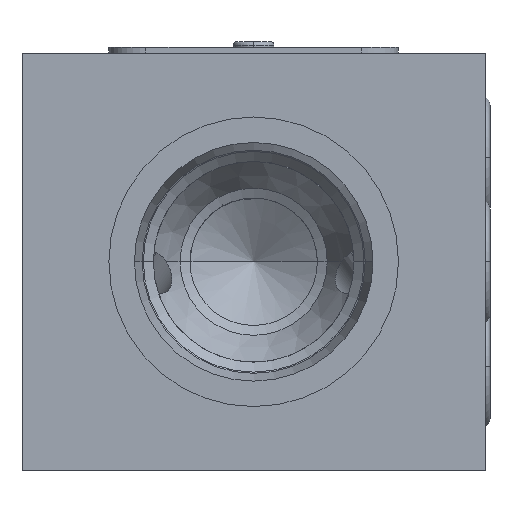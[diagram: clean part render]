
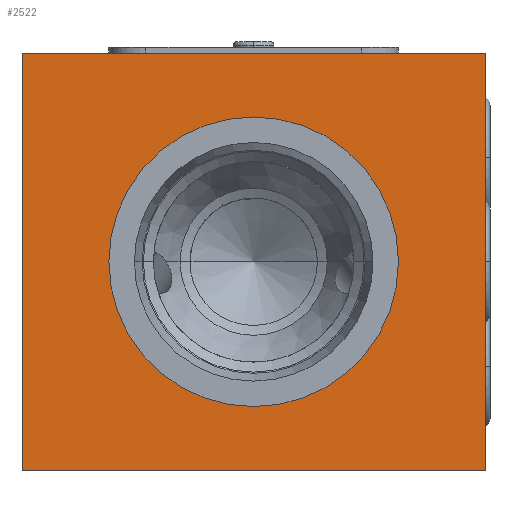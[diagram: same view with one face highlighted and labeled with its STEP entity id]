
A CAD part, left-side view. The second image highlights one B-rep face of the part: STEP entity #2522.
In plain terms, the highlighted planar face has unit normal (-1, 0, 0).
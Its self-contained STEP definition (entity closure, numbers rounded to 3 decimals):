
#55=DIRECTION('',(0.,0.,-1.));
#56=VECTOR('',#55,36.);
#57=CARTESIAN_POINT('',(0.,0.,0.));
#58=LINE('',#57,#56);
#62=DIRECTION('',(0.,1.,0.));
#63=VECTOR('',#62,40.);
#64=CARTESIAN_POINT('',(0.,0.,-36.));
#65=LINE('',#64,#63);
#69=DIRECTION('',(0.,0.,1.));
#70=VECTOR('',#69,36.);
#71=CARTESIAN_POINT('',(0.,40.,-36.));
#72=LINE('',#71,#70);
#76=DIRECTION('',(0.,-1.,0.));
#77=VECTOR('',#76,40.);
#78=CARTESIAN_POINT('',(0.,40.,0.));
#79=LINE('',#78,#77);
#83=CARTESIAN_POINT('',(0.,20.,-18.));
#84=DIRECTION('',(1.,0.,0.));
#85=DIRECTION('',(0.,-1.,0.));
#86=AXIS2_PLACEMENT_3D('',#83,#84,#85);
#91=CARTESIAN_POINT('',(0.,20.,-18.));
#92=DIRECTION('',(1.,0.,0.));
#93=DIRECTION('',(0.,1.,0.));
#94=AXIS2_PLACEMENT_3D('',#91,#92,#93);
#2252=CARTESIAN_POINT('',(0.,0.,0.));
#2253=CARTESIAN_POINT('',(0.,0.,-36.));
#2254=VERTEX_POINT('',#2252);
#2255=VERTEX_POINT('',#2253);
#2256=CARTESIAN_POINT('',(0.,40.,-36.));
#2257=VERTEX_POINT('',#2256);
#2258=CARTESIAN_POINT('',(0.,40.,0.));
#2259=VERTEX_POINT('',#2258);
#2368=CARTESIAN_POINT('',(0.,7.5,-18.));
#2369=VERTEX_POINT('',#2368);
#2370=CARTESIAN_POINT('',(0.,32.5,-18.));
#2371=VERTEX_POINT('',#2370);
#2501=CARTESIAN_POINT('',(0.,0.,0.));
#2502=DIRECTION('',(1.,0.,0.));
#2503=DIRECTION('',(0.,0.,-1.));
#2504=AXIS2_PLACEMENT_3D('',#2501,#2502,#2503);
#2505=PLANE('',#2504);
#2507=ORIENTED_EDGE('',*,*,#2506,.T.);
#2509=ORIENTED_EDGE('',*,*,#2508,.T.);
#2511=ORIENTED_EDGE('',*,*,#2510,.T.);
#2513=ORIENTED_EDGE('',*,*,#2512,.T.);
#2514=EDGE_LOOP('',(#2507,#2509,#2511,#2513));
#2515=FACE_OUTER_BOUND('',#2514,.F.);
#2517=ORIENTED_EDGE('',*,*,#2516,.F.);
#2519=ORIENTED_EDGE('',*,*,#2518,.F.);
#2520=EDGE_LOOP('',(#2517,#2519));
#2521=FACE_BOUND('',#2520,.F.);
#87=CIRCLE('',#86,12.5);
#95=CIRCLE('',#94,12.5);
#2506=EDGE_CURVE('',#2254,#2255,#58,.T.);
#2508=EDGE_CURVE('',#2255,#2257,#65,.T.);
#2510=EDGE_CURVE('',#2257,#2259,#72,.T.);
#2512=EDGE_CURVE('',#2259,#2254,#79,.T.);
#2516=EDGE_CURVE('',#2369,#2371,#87,.T.);
#2518=EDGE_CURVE('',#2371,#2369,#95,.T.);
#2522=ADVANCED_FACE('',(#2515,#2521),#2505,.F.);
